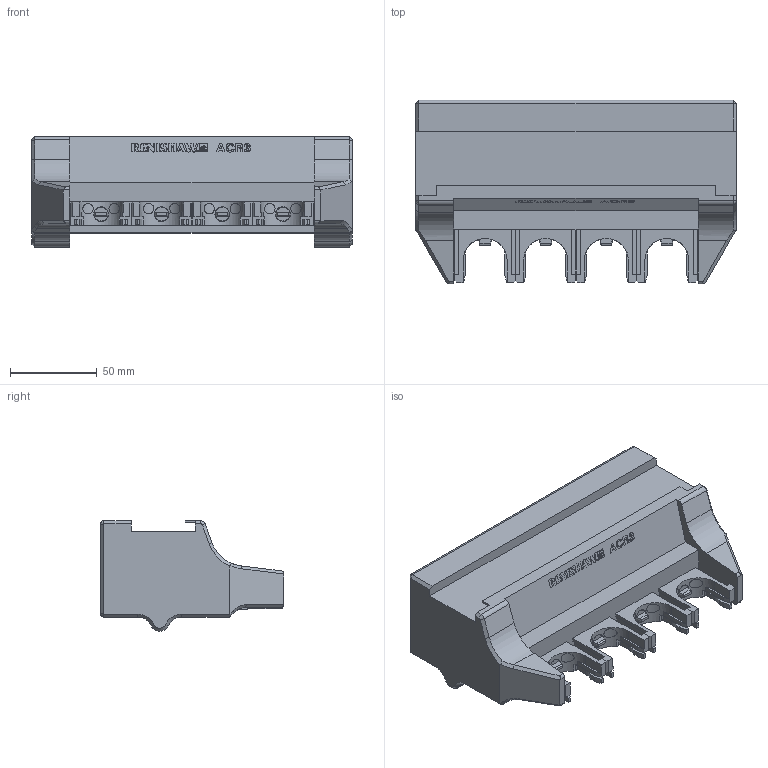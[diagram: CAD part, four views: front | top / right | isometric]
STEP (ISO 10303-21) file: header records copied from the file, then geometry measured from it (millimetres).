
FILE_DESCRIPTION(/* description */ (''),/* implementation_level */ '2;1');
FILE_NAME(/* name */ 'LA-5036-0201#-A.stp',/* time_stamp */ '2012-09-04T13:03:37+01:00',/* author */ (''),/* organization */ (''),/* preprocessor_version */ 'ST-DEVELOPER v11',/* originating_system */ 'SIEMENS PLM Software NX 7.5',/* authorisation */ '');
FILE_SCHEMA (('AUTOMOTIVE_DESIGN { 1 0 10303 214 1 1 1 1 }'));
Length unit declared in the file: millimetre
Products named in the file (1): rt133622tjki
Bounding box: 184.95 x 106 x 63.8 mm (x, y, z)
Volume: 705014.6 mm3; surface area: 74207.6 mm2
Topology: 1 solids, 1 shells, 397 faces, 1504 edges, 1171 vertices
Faces by surface type: plane 284, cylinder 71, cone 22, bspline 20
Full cylindrical faces by diameter (mm): 7.975 x4, 8.475 x4
Entity records: 19904 total; most frequent: CARTESIAN_POINT 5150, ORIENTED_EDGE 2976, DIRECTION 1940, EDGE_CURVE 1488, VERTEX_POINT 1163, LINE 762, VECTOR 762, AXIS2_PLACEMENT_3D 589
